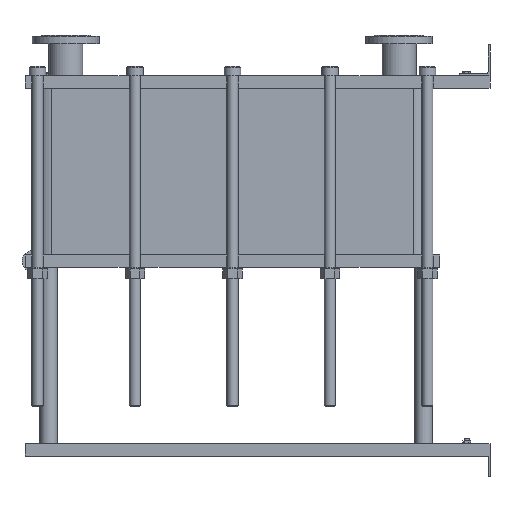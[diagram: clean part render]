
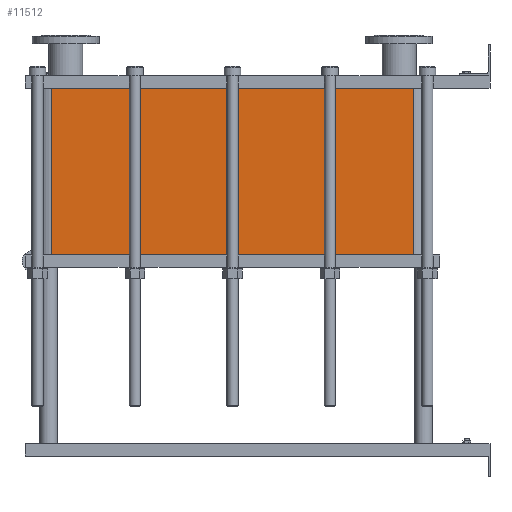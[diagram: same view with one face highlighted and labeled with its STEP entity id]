
A CAD part, left-side view. The second image highlights one B-rep face of the part: STEP entity #11512.
In plain terms, the highlighted planar face has unit normal (-1, 0, 0).
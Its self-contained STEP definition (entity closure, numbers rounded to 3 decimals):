
#1129=LINE('',#23232,#2102);
#1130=LINE('',#23236,#2103);
#1131=LINE('',#23238,#2104);
#1132=LINE('',#23239,#2105);
#2102=VECTOR('',#15887,10.);
#2103=VECTOR('',#15892,10.);
#2104=VECTOR('',#15893,10.);
#2105=VECTOR('',#15894,10.);
#3267=FACE_OUTER_BOUND('',#4093,.T.);
#4093=EDGE_LOOP('',(#10103,#10104,#10105,#10106));
#5642=VERTEX_POINT('',#23229);
#5643=VERTEX_POINT('',#23231);
#5644=VERTEX_POINT('',#23235);
#5645=VERTEX_POINT('',#23237);
#7159=EDGE_CURVE('',#5643,#5642,#1129,.T.);
#7161=EDGE_CURVE('',#5642,#5644,#1130,.T.);
#7162=EDGE_CURVE('',#5645,#5644,#1131,.T.);
#7163=EDGE_CURVE('',#5645,#5643,#1132,.T.);
#10103=ORIENTED_EDGE('',*,*,#7161,.T.);
#10104=ORIENTED_EDGE('',*,*,#7162,.F.);
#10105=ORIENTED_EDGE('',*,*,#7163,.T.);
#10106=ORIENTED_EDGE('',*,*,#7159,.T.);
#10857=PLANE('',#12751);
#11512=ADVANCED_FACE('',(#3267),#10857,.T.);
#12751=AXIS2_PLACEMENT_3D('',#23234,#15890,#15891);
#15887=DIRECTION('',(0.,0.,-1.));
#15890=DIRECTION('center_axis',(-1.,0.,0.));
#15891=DIRECTION('ref_axis',(0.,1.,0.));
#15892=DIRECTION('',(0.,-1.,0.));
#15893=DIRECTION('',(0.,0.,-1.));
#15894=DIRECTION('',(0.,1.,0.));
#23229=CARTESIAN_POINT('',(-200.,1414.,-538.2));
#23231=CARTESIAN_POINT('',(-200.,1414.,0.));
#23232=CARTESIAN_POINT('',(-200.,1414.,0.));
#23234=CARTESIAN_POINT('Origin',(-200.,248.,0.));
#23235=CARTESIAN_POINT('',(-200.,248.,-538.2));
#23236=CARTESIAN_POINT('',(-200.,539.5,-538.2));
#23237=CARTESIAN_POINT('',(-200.,248.,0.));
#23238=CARTESIAN_POINT('',(-200.,248.,0.));
#23239=CARTESIAN_POINT('',(-200.,248.,0.));
